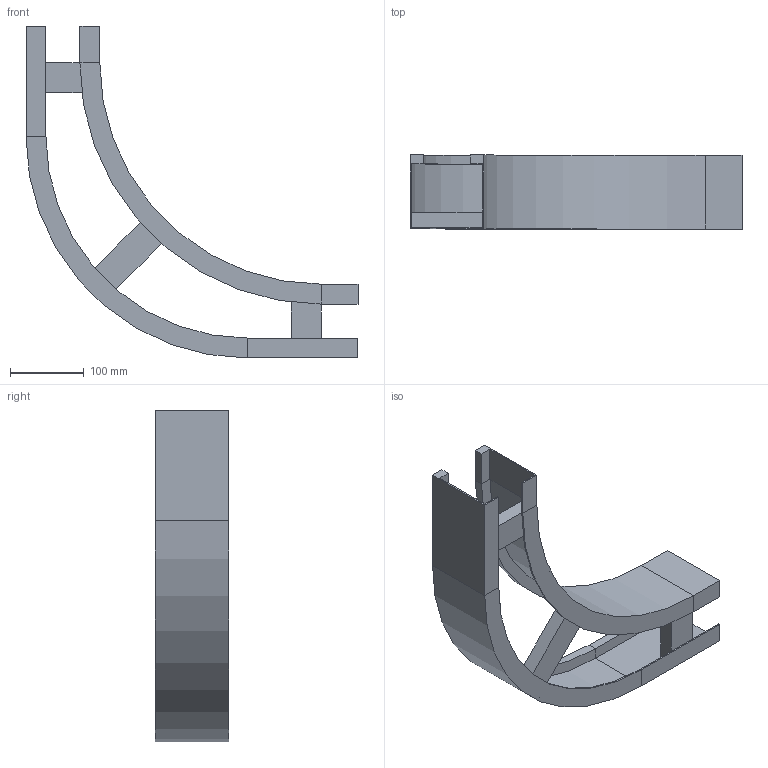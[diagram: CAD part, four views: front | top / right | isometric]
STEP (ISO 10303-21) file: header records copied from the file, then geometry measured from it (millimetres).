
FILE_DESCRIPTION (( 'STEP AP214' ), '1' );
FILE_NAME ('B2_10B3D100.step', '2025-02-21T15:23:19', ( '' ), ( '' ), 'SwSTEP 2.0', 'SolidWorks 2023', '' );
FILE_SCHEMA (( 'AUTOMOTIVE_DESIGN' ));
Length unit declared in the file: millimetre
Products named in the file (5): TRAVERSINO_L136; B2_10B3D100; B2_LONGH.INTERNO 90°_H100_R300; TRAVERSINO_100; B2_LONGH.ESTERNO 90°_H100_R300+100
Assembly tree (5 placements, depth 2):
  B2_10B3D100
    B2_LONGH.INTERNO 90°_H100_R300
    B2_LONGH.ESTERNO 90°_H100_R300+100
    TRAVERSINO_100  x2
    TRAVERSINO_L136
Bounding box: 450 x 100 x 450 mm (x, y, z)
Volume: 859055.2 mm3; surface area: 430264.6 mm2
Topology: 5 solids, 5 shells, 70 faces, 148 edges, 88 vertices
Faces by surface type: plane 62, cylinder 8
Entity records: 1822 total; most frequent: DIRECTION 296, CARTESIAN_POINT 288, ORIENTED_EDGE 272, EDGE_CURVE 136, VECTOR 120, LINE 120, AXIS2_PLACEMENT_3D 88, VERTEX_POINT 80
